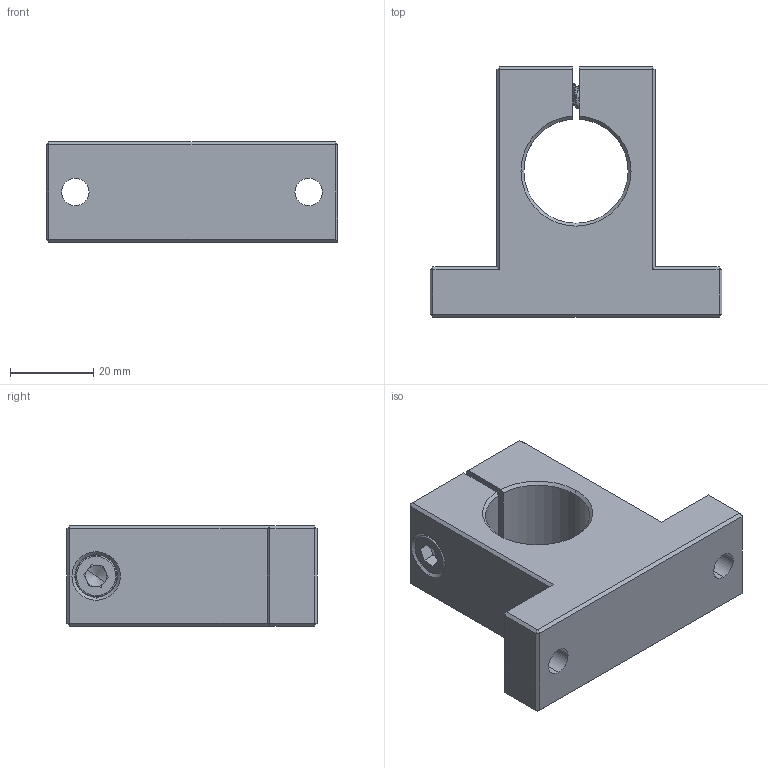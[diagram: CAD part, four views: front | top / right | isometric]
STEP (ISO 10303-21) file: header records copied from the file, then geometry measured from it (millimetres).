
FILE_DESCRIPTION (( 'STEP AP214' ), '1' );
FILE_NAME ('SK25.STEP', '2020-06-26T11:21:58', ( '' ), ( '' ), 'SwSTEP 2.0', 'SolidWorks 2018', '' );
FILE_SCHEMA (( 'AUTOMOTIVE_DESIGN' ));
Length unit declared in the file: millimetre
Products named in the file (3): SK25; SK25 Part2; SK25 Part1
Assembly tree (2 placements, depth 2):
  SK25
    SK25 Part1
    SK25 Part2
Bounding box: 70 x 60 x 24 mm (x, y, z)
Volume: 50266.5 mm3; surface area: 14772.6 mm2
Topology: 2 solids, 2 shells, 146 faces, 357 edges, 216 vertices
Faces by surface type: plane 62, cylinder 55, cone 19, bspline 6, torus 4
Entity records: 8794 total; most frequent: CARTESIAN_POINT 5485, ORIENTED_EDGE 710, DIRECTION 626, EDGE_CURVE 355, AXIS2_PLACEMENT_3D 216, VERTEX_POINT 216, LINE 194, VECTOR 194
